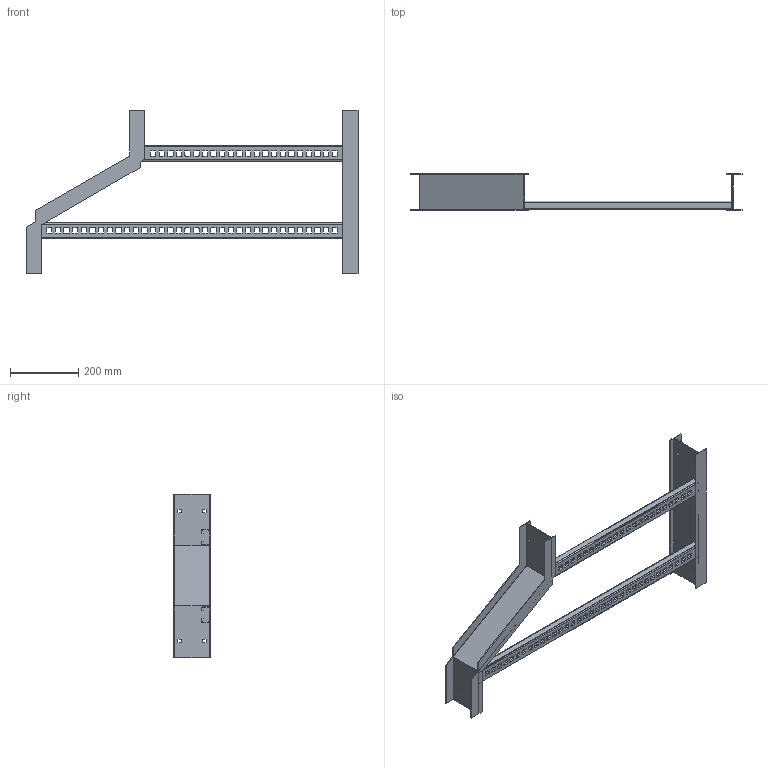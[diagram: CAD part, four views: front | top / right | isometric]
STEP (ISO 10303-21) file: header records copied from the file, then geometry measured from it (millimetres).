
FILE_DESCRIPTION((''),'2;1');
FILE_NAME('AHF43624LHLR_ASM','2010-01-27T',('erouzier'),(''),'PRO/ENGINEER BY PARAMETRIC TECHNOLOGY CORPORATION, 2008510','PRO/ENGINEER BY PARAMETRIC TECHNOLOGY CORPORATION, 2008510','');
FILE_SCHEMA(('CONFIG_CONTROL_DESIGN'));
Length unit declared in the file: inch
Products named in the file (5): CDS013867-4-120; CDS013976-4-12; CDS002159L36-P; CDS002159L24-P_AF6; AHF43624LHLR_ASM
Assembly tree (4 placements, depth 2):
  AHF43624LHLR_ASM
    CDS013867-4-120
    CDS013976-4-12
    CDS002159L36-P
    CDS002159L24-P_AF6
Bounding box: 974.6 x 106.43 x 480.78 mm (x, y, z)
Volume: 616847.2 mm3; surface area: 772204.4 mm2
Topology: 4 solids, 4 shells, 593 faces, 1743 edges, 1158 vertices
Faces by surface type: plane 347, cylinder 246
Entity records: 20168 total; most frequent: CARTESIAN_POINT 3503, ORIENTED_EDGE 3486, DIRECTION 3439, EDGE_CURVE 1743, VECTOR 1251, LINE 1251, VERTEX_POINT 1158, AXIS2_PLACEMENT_3D 1094
